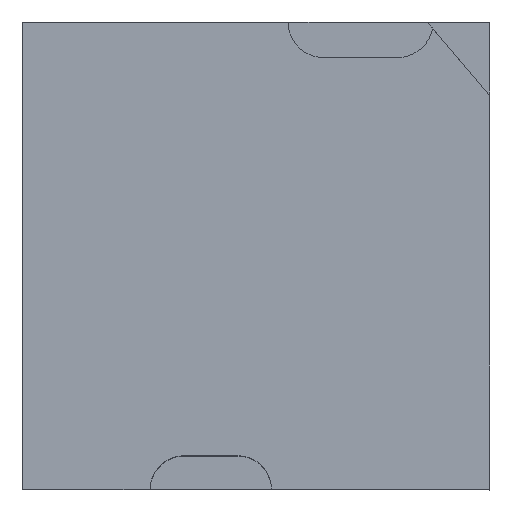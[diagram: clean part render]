
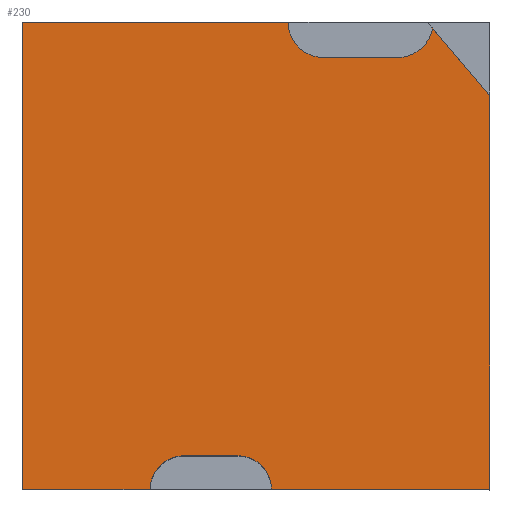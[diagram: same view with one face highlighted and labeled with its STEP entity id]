
A CAD part, top view. The second image highlights one B-rep face of the part: STEP entity #230.
In plain terms, the highlighted planar face has unit normal (0, 0, 1).
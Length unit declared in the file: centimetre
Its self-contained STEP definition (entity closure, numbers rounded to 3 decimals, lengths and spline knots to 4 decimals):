
#4 = VERTEX_POINT ( 'NONE', #645 ) ;
#26 = CARTESIAN_POINT ( 'NONE',  ( 1000., 843.0882, 1000. ) ) ;
#33 = CARTESIAN_POINT ( 'NONE',  ( 877.8716, 987.1711, 1000. ) ) ;
#57 = CARTESIAN_POINT ( 'NONE',  ( 0., 1000., 1000. ) ) ;
#64 = LINE ( 'NONE', #57, #678 ) ;
#72 = DIRECTION ( 'NONE',  ( 1., 0., 0. ) ) ;
#77 = DIRECTION ( 'NONE',  ( 1., 0., 0. ) ) ;
#78 = ORIENTED_EDGE ( 'NONE', *, *, #565, .F. ) ;
#80 = CARTESIAN_POINT ( 'NONE',  ( 461.2565, 71.7786, 1000. ) ) ;
#84 = AXIS2_PLACEMENT_3D ( 'NONE', #794, #936, #118 ) ;
#87 = AXIS2_PLACEMENT_3D ( 'NONE', #501, #712, #486 ) ;
#101 = DIRECTION ( 'NONE',  ( 0., 0., 1. ) ) ;
#118 = DIRECTION ( 'NONE',  ( 1., 0., 0. ) ) ;
#147 = CARTESIAN_POINT ( 'NONE',  ( 0., 0., 1000. ) ) ;
#149 = EDGE_CURVE ( 'NONE', #689, #616, #523, .T. ) ;
#186 = CARTESIAN_POINT ( 'NONE',  ( 0., 0., 1000. ) ) ;
#192 = EDGE_CURVE ( 'NONE', #708, #325, #64, .T. ) ;
#193 = ORIENTED_EDGE ( 'NONE', *, *, #903, .F. ) ;
#202 = CARTESIAN_POINT ( 'NONE',  ( 1000., 0., 1000. ) ) ;
#210 = EDGE_CURVE ( 'NONE', #724, #327, #370, .T. ) ;
#225 = FACE_OUTER_BOUND ( 'NONE', #837, .T. ) ;
#227 = DIRECTION ( 'NONE',  ( 1., 0., 0. ) ) ;
#230 = ADVANCED_FACE ( 'NONE', ( #225 ), #601, .T. ) ;
#234 = VECTOR ( 'NONE', #304, 100. ) ;
#235 = LINE ( 'NONE', #532, #633 ) ;
#237 = ORIENTED_EDGE ( 'NONE', *, *, #539, .T. ) ;
#239 = ORIENTED_EDGE ( 'NONE', *, *, #694, .F. ) ;
#248 = EDGE_CURVE ( 'NONE', #4, #616, #235, .T. ) ;
#276 = DIRECTION ( 'NONE',  ( 0.647, -0.763, 0. ) ) ;
#297 = CARTESIAN_POINT ( 'NONE',  ( 644.2682, 924.0252, 1000. ) ) ;
#298 = EDGE_CURVE ( 'NONE', #844, #406, #980, .T. ) ;
#304 = DIRECTION ( 'NONE',  ( 1., 0., 0. ) ) ;
#325 = VERTEX_POINT ( 'NONE', #466 ) ;
#327 = VERTEX_POINT ( 'NONE', #767 ) ;
#334 = ORIENTED_EDGE ( 'NONE', *, *, #452, .F. ) ;
#346 = ORIENTED_EDGE ( 'NONE', *, *, #248, .T. ) ;
#370 = LINE ( 'NONE', #297, #234 ) ;
#383 = DIRECTION ( 'NONE',  ( -1., 0., 0. ) ) ;
#387 = CARTESIAN_POINT ( 'NONE',  ( 568.2934, 1000., 1000. ) ) ;
#405 = VERTEX_POINT ( 'NONE', #33 ) ;
#406 = VERTEX_POINT ( 'NONE', #803 ) ;
#448 = DIRECTION ( 'NONE',  ( 0., 0., 1. ) ) ;
#452 = EDGE_CURVE ( 'NONE', #708, #724, #937, .T. ) ;
#458 = CARTESIAN_POINT ( 'NONE',  ( 802.9877, 1000., 1000. ) ) ;
#466 = CARTESIAN_POINT ( 'NONE',  ( 0., 1000., 1000. ) ) ;
#476 = ORIENTED_EDGE ( 'NONE', *, *, #662, .T. ) ;
#483 = DIRECTION ( 'NONE',  ( 1., 0., 0. ) ) ;
#486 = DIRECTION ( 'NONE',  ( 1., 0., 0. ) ) ;
#501 = CARTESIAN_POINT ( 'NONE',  ( 461.2565, 0., 1000. ) ) ;
#523 = CIRCLE ( 'NONE', #665, 71.7786 ) ;
#532 = CARTESIAN_POINT ( 'NONE',  ( 0., 0., 1000. ) ) ;
#539 = EDGE_CURVE ( 'NONE', #325, #4, #635, .T. ) ;
#548 = CARTESIAN_POINT ( 'NONE',  ( 644.2682, 924.0252, 1000. ) ) ;
#565 = EDGE_CURVE ( 'NONE', #327, #405, #969, .T. ) ;
#568 = ORIENTED_EDGE ( 'NONE', *, *, #149, .F. ) ;
#569 = DIRECTION ( 'NONE',  ( 1., 0., 0. ) ) ;
#575 = VECTOR ( 'NONE', #918, 100. ) ;
#601 = PLANE ( 'NONE',  #924 ) ;
#608 = DIRECTION ( 'NONE',  ( -1., 0., 0. ) ) ;
#616 = VERTEX_POINT ( 'NONE', #854 ) ;
#621 = CARTESIAN_POINT ( 'NONE',  ( 533.0351, 0., 1000. ) ) ;
#623 = CARTESIAN_POINT ( 'NONE',  ( 1000., 1000., 1000. ) ) ;
#628 = VERTEX_POINT ( 'NONE', #621 ) ;
#633 = VECTOR ( 'NONE', #72, 100. ) ;
#635 = LINE ( 'NONE', #787, #880 ) ;
#639 = DIRECTION ( 'NONE',  ( 0., -1., 0. ) ) ;
#641 = LINE ( 'NONE', #26, #882 ) ;
#642 = ORIENTED_EDGE ( 'NONE', *, *, #192, .T. ) ;
#645 = CARTESIAN_POINT ( 'NONE',  ( 0., 0., 1000. ) ) ;
#646 = CARTESIAN_POINT ( 'NONE',  ( 461.2565, 71.7786, 1000. ) ) ;
#662 = EDGE_CURVE ( 'NONE', #628, #844, #858, .T. ) ;
#665 = AXIS2_PLACEMENT_3D ( 'NONE', #960, #752, #227 ) ;
#678 = VECTOR ( 'NONE', #608, 100. ) ;
#689 = VERTEX_POINT ( 'NONE', #981 ) ;
#694 = EDGE_CURVE ( 'NONE', #938, #689, #707, .T. ) ;
#707 = LINE ( 'NONE', #80, #847 ) ;
#708 = VERTEX_POINT ( 'NONE', #387 ) ;
#711 = AXIS2_PLACEMENT_3D ( 'NONE', #458, #101, #569 ) ;
#712 = DIRECTION ( 'NONE',  ( 0., 0., 1. ) ) ;
#724 = VERTEX_POINT ( 'NONE', #548 ) ;
#730 = ORIENTED_EDGE ( 'NONE', *, *, #298, .T. ) ;
#752 = DIRECTION ( 'NONE',  ( 0., 0., 1. ) ) ;
#767 = CARTESIAN_POINT ( 'NONE',  ( 802.9877, 924.0252, 1000. ) ) ;
#787 = CARTESIAN_POINT ( 'NONE',  ( 0., 1000., 1000. ) ) ;
#794 = CARTESIAN_POINT ( 'NONE',  ( 644.2682, 1000., 1000. ) ) ;
#803 = CARTESIAN_POINT ( 'NONE',  ( 1000., 843.0882, 1000. ) ) ;
#818 = VECTOR ( 'NONE', #483, 100. ) ;
#837 = EDGE_LOOP ( 'NONE', ( #568, #239, #848, #476, #730, #193, #78, #942, #334, #642, #237, #346 ) ) ;
#844 = VERTEX_POINT ( 'NONE', #202 ) ;
#847 = VECTOR ( 'NONE', #383, 100. ) ;
#848 = ORIENTED_EDGE ( 'NONE', *, *, #892, .F. ) ;
#854 = CARTESIAN_POINT ( 'NONE',  ( 273.5432, 0., 1000. ) ) ;
#858 = LINE ( 'NONE', #186, #818 ) ;
#880 = VECTOR ( 'NONE', #639, 100. ) ;
#882 = VECTOR ( 'NONE', #276, 100. ) ;
#892 = EDGE_CURVE ( 'NONE', #628, #938, #923, .T. ) ;
#903 = EDGE_CURVE ( 'NONE', #405, #406, #641, .T. ) ;
#918 = DIRECTION ( 'NONE',  ( 0., 1., 0. ) ) ;
#923 = CIRCLE ( 'NONE', #87, 71.7786 ) ;
#924 = AXIS2_PLACEMENT_3D ( 'NONE', #147, #448, #77 ) ;
#936 = DIRECTION ( 'NONE',  ( 0., 0., 1. ) ) ;
#937 = CIRCLE ( 'NONE', #84, 75.9748 ) ;
#938 = VERTEX_POINT ( 'NONE', #646 ) ;
#942 = ORIENTED_EDGE ( 'NONE', *, *, #210, .F. ) ;
#960 = CARTESIAN_POINT ( 'NONE',  ( 345.3219, 0., 1000. ) ) ;
#969 = CIRCLE ( 'NONE', #711, 75.9748 ) ;
#980 = LINE ( 'NONE', #623, #575 ) ;
#981 = CARTESIAN_POINT ( 'NONE',  ( 345.3219, 71.7786, 1000. ) ) ;
